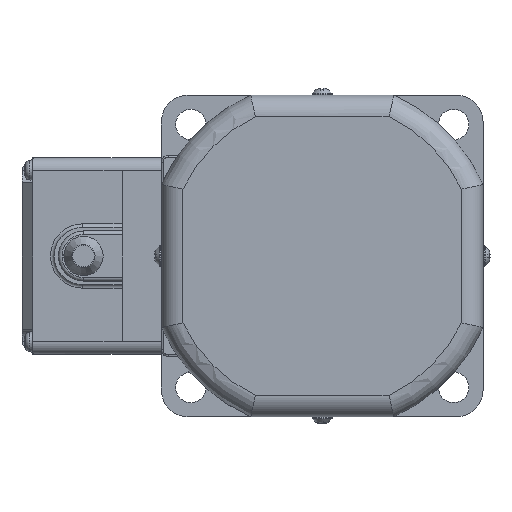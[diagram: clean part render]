
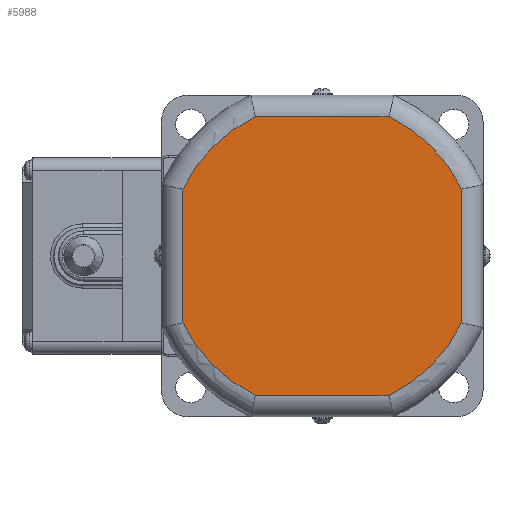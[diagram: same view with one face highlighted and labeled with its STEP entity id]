
A CAD part, left-side view. The second image highlights one B-rep face of the part: STEP entity #5988.
In plain terms, the highlighted planar face has unit normal (-1, 0, 0).
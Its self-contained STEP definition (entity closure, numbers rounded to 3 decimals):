
#378=LINE('',#9576,#763);
#379=LINE('',#9580,#764);
#380=LINE('',#9584,#765);
#381=LINE('',#9588,#766);
#763=VECTOR('',#7263,37.393);
#764=VECTOR('',#7266,37.393);
#765=VECTOR('',#7269,37.393);
#766=VECTOR('',#7272,37.393);
#1350=FACE_OUTER_BOUND('',#1733,.T.);
#1733=EDGE_LOOP('',(#4156,#4157,#4158,#4159,#4160,#4161,#4162,#4163));
#2105=CIRCLE('',#6402,43.25);
#2106=CIRCLE('',#6403,43.25);
#2107=CIRCLE('',#6404,43.25);
#2108=CIRCLE('',#6405,43.25);
#2463=VERTEX_POINT('',#9574);
#2464=VERTEX_POINT('',#9575);
#2465=VERTEX_POINT('',#9577);
#2466=VERTEX_POINT('',#9579);
#2467=VERTEX_POINT('',#9581);
#2468=VERTEX_POINT('',#9583);
#2469=VERTEX_POINT('',#9585);
#2470=VERTEX_POINT('',#9587);
#3107=EDGE_CURVE('',#2463,#2464,#378,.T.);
#3108=EDGE_CURVE('',#2465,#2463,#2105,.T.);
#3109=EDGE_CURVE('',#2466,#2465,#379,.T.);
#3110=EDGE_CURVE('',#2467,#2466,#2106,.T.);
#3111=EDGE_CURVE('',#2468,#2467,#380,.T.);
#3112=EDGE_CURVE('',#2469,#2468,#2107,.T.);
#3113=EDGE_CURVE('',#2470,#2469,#381,.T.);
#3114=EDGE_CURVE('',#2464,#2470,#2108,.T.);
#4156=ORIENTED_EDGE('',*,*,#3107,.F.);
#4157=ORIENTED_EDGE('',*,*,#3108,.F.);
#4158=ORIENTED_EDGE('',*,*,#3109,.F.);
#4159=ORIENTED_EDGE('',*,*,#3110,.F.);
#4160=ORIENTED_EDGE('',*,*,#3111,.F.);
#4161=ORIENTED_EDGE('',*,*,#3112,.F.);
#4162=ORIENTED_EDGE('',*,*,#3113,.F.);
#4163=ORIENTED_EDGE('',*,*,#3114,.F.);
#5522=PLANE('',#6401);
#5988=ADVANCED_FACE('',(#1350),#5522,.F.);
#6401=AXIS2_PLACEMENT_3D('',#9573,#7261,#7262);
#6402=AXIS2_PLACEMENT_3D('',#9578,#7264,#7265);
#6403=AXIS2_PLACEMENT_3D('',#9582,#7267,#7268);
#6404=AXIS2_PLACEMENT_3D('',#9586,#7270,#7271);
#6405=AXIS2_PLACEMENT_3D('',#9589,#7273,#7274);
#7261=DIRECTION('center_axis',(1.,0.,0.));
#7262=DIRECTION('ref_axis',(0.,1.,0.));
#7263=DIRECTION('',(0.,-1.,0.));
#7264=DIRECTION('center_axis',(1.,0.,0.));
#7265=DIRECTION('ref_axis',(0.,0.707,0.707));
#7266=DIRECTION('',(0.,0.,1.));
#7267=DIRECTION('center_axis',(1.,0.,0.));
#7268=DIRECTION('ref_axis',(0.,0.707,-0.707));
#7269=DIRECTION('',(0.,1.,0.));
#7270=DIRECTION('center_axis',(1.,0.,0.));
#7271=DIRECTION('ref_axis',(0.,-0.707,-0.707));
#7272=DIRECTION('',(0.,0.,-1.));
#7273=DIRECTION('center_axis',(1.,0.,0.));
#7274=DIRECTION('ref_axis',(0.,-0.707,0.707));
#9573=CARTESIAN_POINT('Origin',(-17.8,0.,
0.));
#9574=CARTESIAN_POINT('',(-17.8,18.697,39.));
#9575=CARTESIAN_POINT('',(-17.8,-18.697,39.));
#9576=CARTESIAN_POINT('',(-17.8,18.697,39.));
#9577=CARTESIAN_POINT('',(-17.8,39.,18.697));
#9578=CARTESIAN_POINT('Origin',(-17.8,0.,
0.));
#9579=CARTESIAN_POINT('',(-17.8,39.,-18.697));
#9580=CARTESIAN_POINT('',(-17.8,39.,-18.697));
#9581=CARTESIAN_POINT('',(-17.8,18.697,-39.));
#9582=CARTESIAN_POINT('Origin',(-17.8,0.,
0.));
#9583=CARTESIAN_POINT('',(-17.8,-18.697,-39.));
#9584=CARTESIAN_POINT('',(-17.8,-18.697,-39.));
#9585=CARTESIAN_POINT('',(-17.8,-39.,-18.697));
#9586=CARTESIAN_POINT('Origin',(-17.8,0.,
0.));
#9587=CARTESIAN_POINT('',(-17.8,-39.,18.697));
#9588=CARTESIAN_POINT('',(-17.8,-39.,18.697));
#9589=CARTESIAN_POINT('Origin',(-17.8,0.,
0.));
